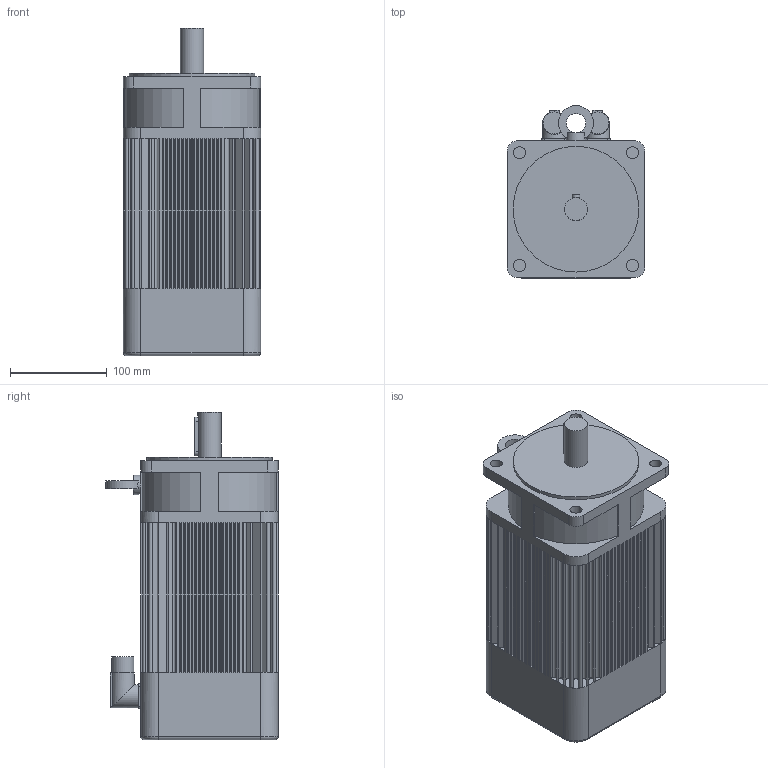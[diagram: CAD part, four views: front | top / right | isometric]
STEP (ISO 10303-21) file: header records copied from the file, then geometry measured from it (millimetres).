
FILE_DESCRIPTION(/* description */ (''),/* implementation_level */ '2;1');
FILE_NAME(/* name */ '\\Lafnas01\disegni\Archivi Lafert\3D\CAD 3D\MODELLI\Assiemi clienti\Serad\Modelli 3D Serad\B71I\Resolver\Res With Brake\B7112Ixx6B052033.ipt.stp',/* time_stamp */ '2015-09-07T10:51:52+02:00',/* author */ ('Pastrello Ylenia'),/* organization */ (''),/* preprocessor_version */ 'ST-DEVELOPER v15.6',/* originating_system */ 'Autodesk Inventor 2015',/* authorisation */ '');
FILE_SCHEMA (('AUTOMOTIVE_DESIGN { 1 0 10303 214 3 1 1 }'));
Length unit declared in the file: millimetre
Products named in the file (1): B7112Ixx6B052033
Bounding box: 142 x 178 x 338.5 mm (x, y, z)
Volume: 5441779.6 mm3; surface area: 300838.2 mm2
Topology: 1 solids, 1 shells, 547 faces, 1378 edges, 903 vertices
Faces by surface type: plane 430, cylinder 113, torus 4
Full cylindrical faces by diameter (mm): 12.5 x4, 20 x2, 22.7 x2, 24 x3, 130 x1
Entity records: 16305 total; most frequent: CARTESIAN_POINT 2863, DIRECTION 2786, ORIENTED_EDGE 2724, EDGE_CURVE 1362, LINE 1026, VECTOR 1026, VERTEX_POINT 900, AXIS2_PLACEMENT_3D 880
